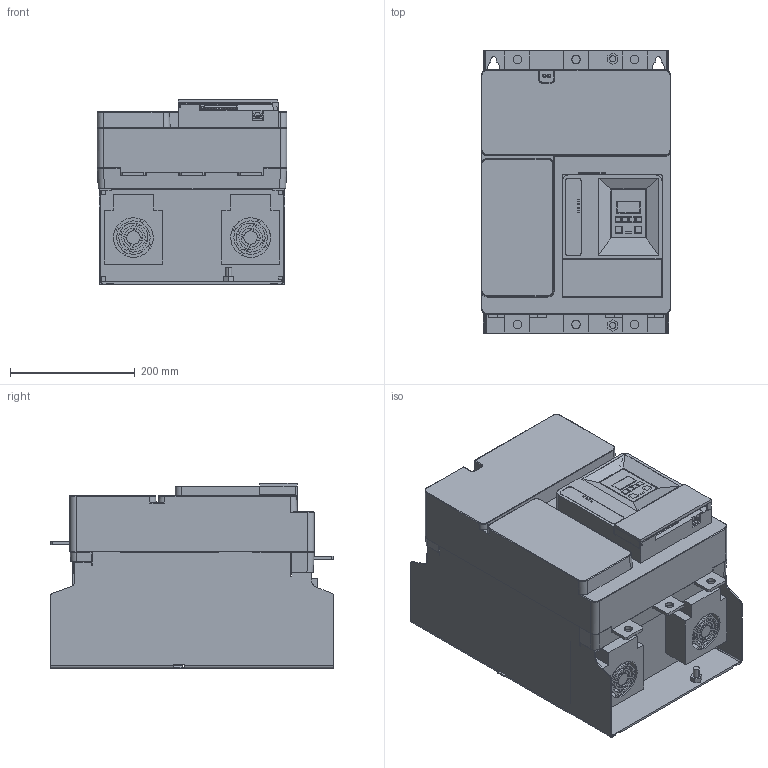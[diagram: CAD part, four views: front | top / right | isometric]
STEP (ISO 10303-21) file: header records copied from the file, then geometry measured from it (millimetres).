
FILE_DESCRIPTION (( 'STEP AP203' ), '1' );
FILE_NAME ('ATS430_SIZE_4 _3D-simpl.STEP', '2024-02-06T14:23:37', ( '' ), ( '' ), 'SwSTEP 2.0', 'SolidWorks 2023', '' );
FILE_SCHEMA (( 'CONFIG_CONTROL_DESIGN' ));
Length unit declared in the file: millimetre
Products named in the file (1): ATS430_SIZE_4 _3D-simpl
Bounding box: 304 x 455 x 296.84 mm (x, y, z)
Volume: 11532774.4 mm3; surface area: 1501033.2 mm2
Topology: 3 solids, 3 shells, 1742 faces, 5091 edges, 3394 vertices
Faces by surface type: plane 1237, cylinder 323, cone 133, bspline 25, torus 24
Entity records: 63167 total; most frequent: CARTESIAN_POINT 17234, ORIENTED_EDGE 10174, DIRECTION 8578, EDGE_CURVE 5087, LINE 3608, VECTOR 3608, VERTEX_POINT 3394, AXIS2_PLACEMENT_3D 2485
